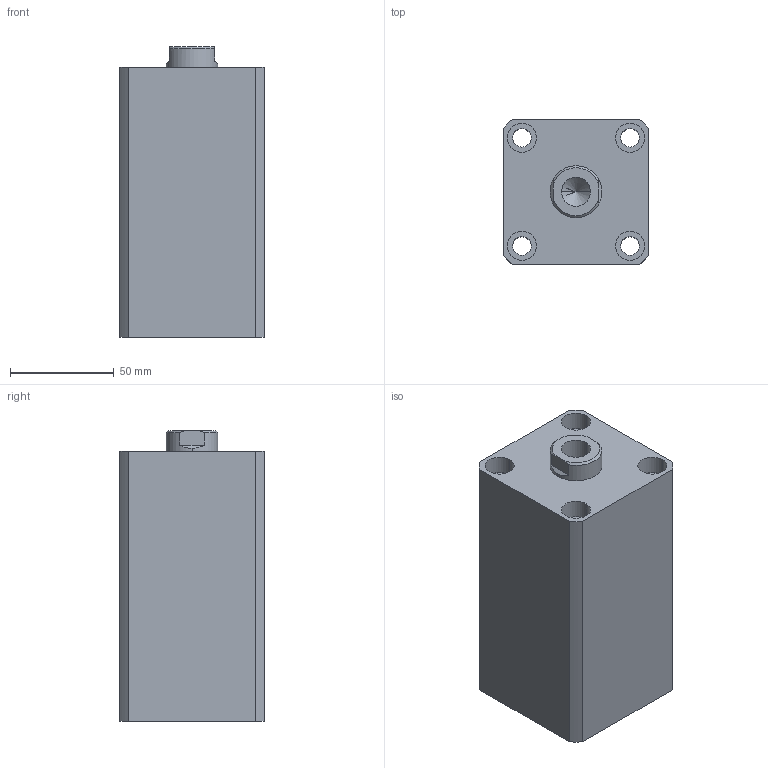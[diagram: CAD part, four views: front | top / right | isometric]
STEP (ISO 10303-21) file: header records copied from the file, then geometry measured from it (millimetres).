
FILE_DESCRIPTION (( 'STEP AP203' ), '1' );
FILE_NAME ('HTB-SDMB40-75N.STEP', '2019-10-09T02:17:40', ( '微软用户' ), ( '微软中国' ), 'SwSTEP 2.0', 'SolidWorks 2012', '' );
FILE_SCHEMA (( 'CONFIG_CONTROL_DESIGN' ));
Length unit declared in the file: millimetre
Products named in the file (3): HTB-SDMB40-75N; HTB-SDMB40-75N活塞杆; HTB-SDMB40-75掛极
Assembly tree (2 placements, depth 2):
  HTB-SDMB40-75N
    HTB-SDMB40-75掛极
    HTB-SDMB40-75N活塞杆
Bounding box: 70 x 70 x 140 mm (x, y, z)
Volume: 535478 mm3; surface area: 90429.2 mm2
Topology: 2 solids, 2 shells, 137 faces, 331 edges, 217 vertices
Faces by surface type: plane 65, cylinder 46, bspline 16, torus 6, cone 4
Entity records: 5074 total; most frequent: CARTESIAN_POINT 1580, ORIENTED_EDGE 658, DIRECTION 647, EDGE_CURVE 329, AXIS2_PLACEMENT_3D 232, VERTEX_POINT 217, VECTOR 183, LINE 183
